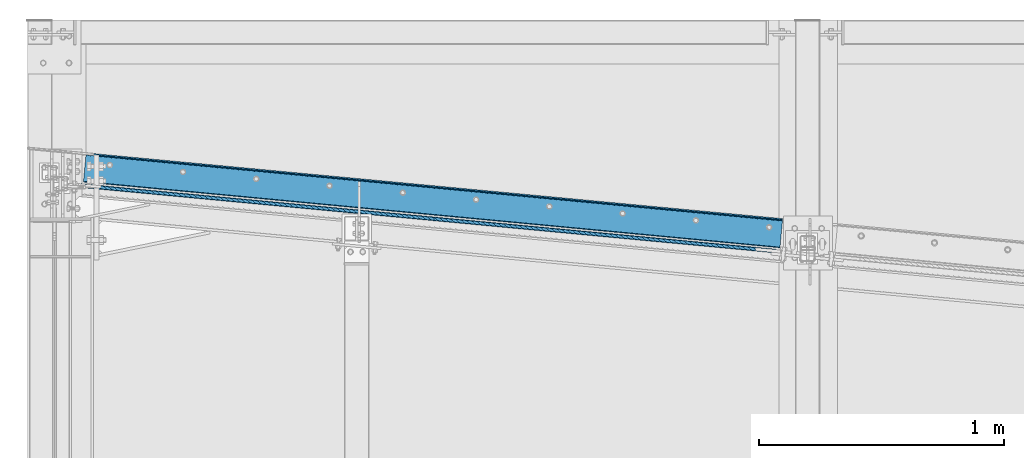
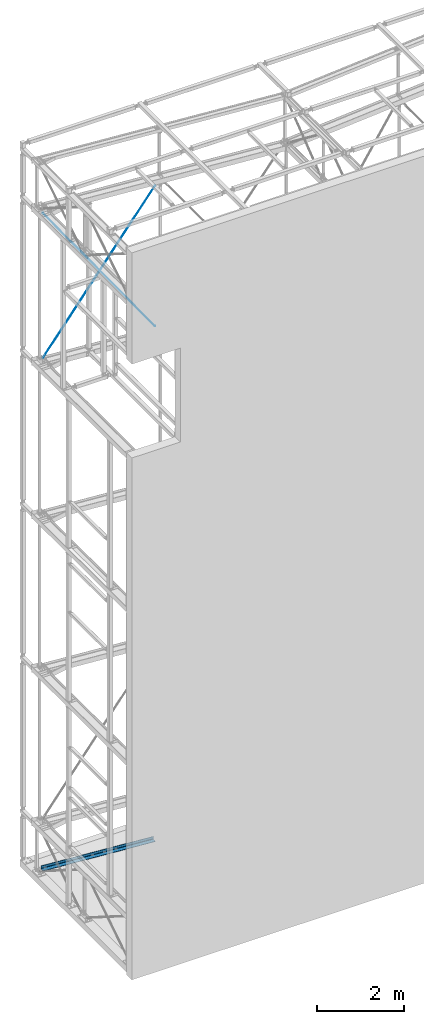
# One storey, part 28 of 271: 2 members, 1 beam, 3 elements without a shape of their own.
"""IFC2X3 building model written with IfcOpenShell, lengths in millimetres."""

from ifc_helpers import new_model, si_unit, frame, origin_with_axes, origin_2d_with_axis, place, context, subcontext, project, spatial, circle, l_section, extrude, clip, halfspace, material, type_object, element, aggregate, save


model = new_model("IFC2X3")

# Units and contexts
model_context = context("Model", 3, precision=1e-05, world=origin_with_axes())
body_context = subcontext(model_context, "Body", "Model", "MODEL_VIEW")
ifc_project = project(units=[si_unit("LENGTHUNIT", "METRE", prefix="MILLI"), si_unit("AREAUNIT", "SQUARE_METRE"), si_unit("VOLUMEUNIT", "CUBIC_METRE"), si_unit("MASSUNIT", "GRAM", prefix="KILO"), si_unit("TIMEUNIT", "SECOND"), si_unit("PLANEANGLEUNIT", "RADIAN"), si_unit("SOLIDANGLEUNIT", "STERADIAN"), si_unit("THERMODYNAMICTEMPERATUREUNIT", "DEGREE_CELSIUS"), si_unit("LUMINOUSINTENSITYUNIT", "LUMEN")], contexts=[model_context])

# Site, building, storey
site_placement = place(None, origin_with_axes())
site = spatial("IfcSite", under=ifc_project, at=site_placement, Name="Undefined", CompositionType="ELEMENT")
building_placement = place(site_placement, origin_with_axes())
building = spatial("IfcBuilding", under=site, at=building_placement, Name="Undefined", CompositionType="ELEMENT")
storey_placement = place(building_placement, origin_with_axes())
storey = spatial("IfcBuildingStorey", under=building, at=storey_placement, Name="Undefined", CompositionType="ELEMENT", Elevation=0.0)

# Assembly, beam
assembly_1_placement = place(storey_placement, origin_with_axes())
assembly_1 = element("IfcElementAssembly", 1, at=assembly_1_placement, inside=storey, Name="BELKA", AssemblyPlace="NOTDEFINED", PredefinedType="RIGID_FRAME")
ifc_material = material(Name="STEEL/S355JR")
beam_type = type_object("IfcBeamType", Name="L120*80*8", PredefinedType="NOTDEFINED")
beam_placement = place(assembly_1_placement, frame((3061.62431291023, 4090.0610877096, 23.8499999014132), z_axis=(-0.0940209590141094, -0.995570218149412, 0.0), x_axis=(-0.995570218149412, 0.0940209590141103, 0.0)))
beam = element("IfcBeam", 2, at=beam_placement, type_object=beam_type, material=ifc_material, Name="BELKA", ObjectType="L120*80*8", context=body_context, shape_type="SweptSolid", body=[
    extrude(l_section(Depth=120.0, Width=80.0, Thickness=8.0, FilletRadius=11.0, EdgeRadius=5.5, at=origin_2d_with_axis()), frame((2851.85717354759, 0.0, 3.95774687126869e-14), z_axis=(-1.0, 0.0, 1.38777878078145e-17), x_axis=(0.0, -1.0, 0.0)), (0.0, 0.0, 1.0), 2851.86),
])
aggregate(assembly_1, [beam])

# Assembly, member
assembly_2_placement = place(storey_placement, origin_with_axes())
assembly_2 = element("IfcElementAssembly", 3, at=assembly_2_placement, inside=storey, AssemblyPlace="NOTDEFINED", PredefinedType="RIGID_FRAME")
member_type = type_object("IfcMemberType", Name="D16", PredefinedType="NOTDEFINED")
member_1_placement = place(assembly_2_placement, frame((122.999999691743, 4292.19355050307, 18644.3499999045), z_axis=(0.0312255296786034, 0.998530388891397, -0.0442947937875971), x_axis=(0.57532667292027, -0.0541946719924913, -0.816126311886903)))
member_1 = element("IfcMember", 4, at=member_1_placement, type_object=member_type, material=ifc_material, Name="STĘŻENIE", ObjectType="D16", context=body_context, shape_type="Clipping", body=[
    clip(clip(extrude(circle(Radius=8.0, at=origin_2d_with_axis()), frame((5293.29827722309, 2.27373675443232e-13, 0.0), z_axis=(-1.0, 0.0, 1.38777878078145e-17), x_axis=(0.0, -1.0, 0.0)), (0.0, 0.0, 1.0), 5293.3), halfspace(frame((5063.33957223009, 1.39579595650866, -18.1289368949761), z_axis=(-1.0, 0.0, 1.38777878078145e-17), x_axis=(2.10691723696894e-10, 0.997049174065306, 0.0767655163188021)), True)), halfspace(frame((149.375514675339, -1.03455022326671e-10, -4.99999939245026), z_axis=(1.0, 0.0, 0.0), x_axis=(0.0, -1.0, 0.0)), True)),
])
aggregate(assembly_2, [member_1])

assembly_3_placement = place(storey_placement, origin_with_axes())
assembly_3 = element("IfcElementAssembly", 5, at=assembly_3_placement, inside=storey, AssemblyPlace="NOTDEFINED", PredefinedType="RIGID_FRAME")
member_2_placement = place(assembly_3_placement, frame((122.999999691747, 4292.19355050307, 14324.3499999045), z_axis=(0.0312255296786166, 0.998530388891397, 0.0442947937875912), x_axis=(0.575326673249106, -0.0541946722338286, 0.816126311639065)))
member_2 = element("IfcMember", 6, at=member_2_placement, type_object=member_type, material=ifc_material, Name="STĘŻENIE", ObjectType="D16", context=body_context, shape_type="Clipping", body=[
    clip(clip(extrude(circle(Radius=8.0, at=origin_2d_with_axis()), frame((5293.29827722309, 2.27373675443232e-13, 0.0), z_axis=(-1.0, 0.0, 1.38777878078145e-17), x_axis=(0.0, -1.0, 0.0)), (0.0, 0.0, 1.0), 5293.3), halfspace(frame((5063.34097846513, -1.39695925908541, -18.1440461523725), z_axis=(-1.0, 0.0, 1.38777878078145e-17), x_axis=(-2.10693542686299e-10, 0.997049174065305, -0.076765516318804)), True)), halfspace(frame((149.375514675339, -1.03455022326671e-10, -4.99999939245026), z_axis=(1.0, 0.0, 0.0), x_axis=(0.0, -1.0, 0.0)), True)),
])
aggregate(assembly_3, [member_2])

save(model, "model.ifc")
